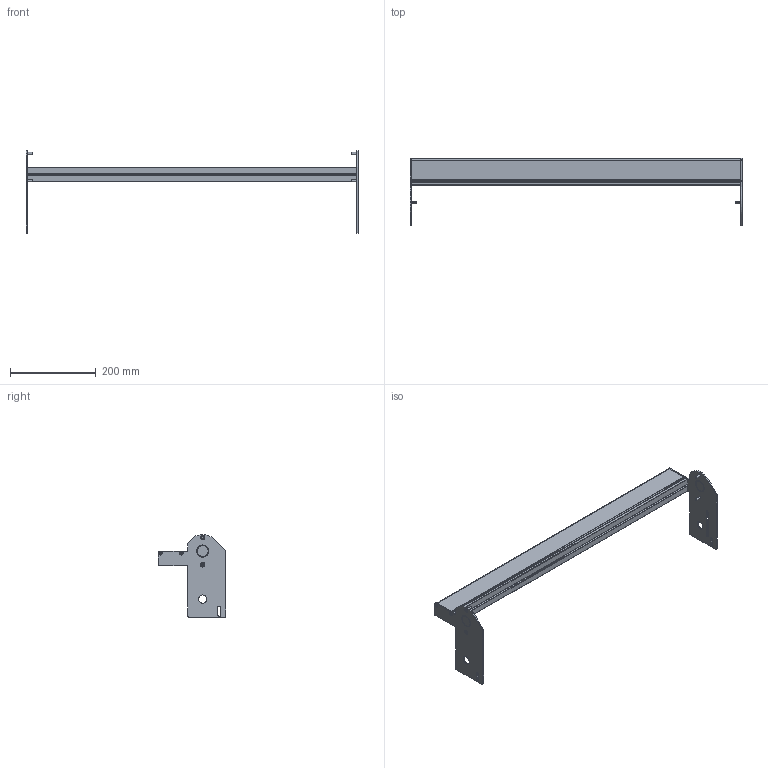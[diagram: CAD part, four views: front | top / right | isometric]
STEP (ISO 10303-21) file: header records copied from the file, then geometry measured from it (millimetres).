
FILE_DESCRIPTION((''),'2;1');
FILE_NAME('350712-30_ASM','2023-03-22T',('jenni.wallner'),(''),'PRO/ENGINEER BY PARAMETRIC TECHNOLOGY CORPORATION, 2012420','PRO/ENGINEER BY PARAMETRIC TECHNOLOGY CORPORATION, 2012420','');
FILE_SCHEMA(('CONFIG_CONTROL_DESIGN'));
Length unit declared in the file: inch
Products named in the file (6): 350669-30; 350667; 350668; 930412M; 930516M; 350712-30_ASM
Assembly tree (11 placements, depth 2):
  350712-30_ASM
    350669-30
    350667
    350668
    930412M  x4
    930516M  x4
Bounding box: 774.34 x 158.09 x 193.27 mm (x, y, z)
Volume: 718561.6 mm3; surface area: 468535.4 mm2
Topology: 11 solids, 11 shells, 334 faces, 872 edges, 568 vertices
Faces by surface type: plane 150, cylinder 136, cone 48
Entity records: 7773 total; most frequent: DIRECTION 1398, CARTESIAN_POINT 1317, ORIENTED_EDGE 1288, EDGE_CURVE 644, AXIS2_PLACEMENT_3D 505, VERTEX_POINT 424, VECTOR 388, LINE 388
